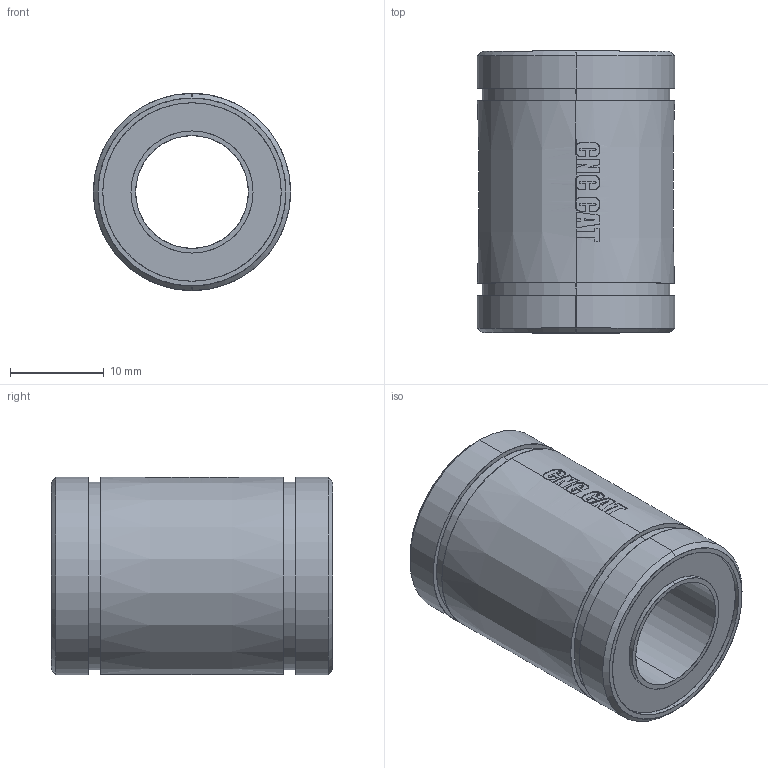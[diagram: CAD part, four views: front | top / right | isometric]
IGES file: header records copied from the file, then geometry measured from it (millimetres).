
Start section: SolidWorks IGES file using analytic representation for surfaces
Global section: file name: D:\SOLIDWORKS PROEKTI\freelance cnc cat\NOV TERK\LM12UU.IGS; native system: SolidWorks 2016; preprocessor: SolidWorks 2016; author: User; date: 170805.141157; units: millimetre
Bounding box: 21 x 30 x 21 mm (x, y, z)
Surface area: 3764.9 mm2 (no closed solid volume)
Topology: 0 solids, 0 shells, 123 faces, 2116 edges, 2438 vertices
Faces by surface type: bspline 87, revolution 36
